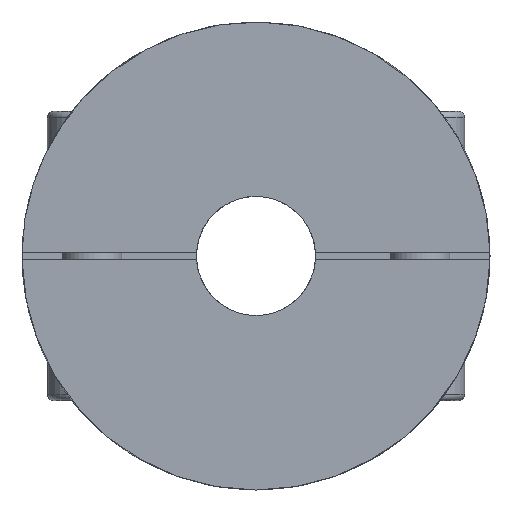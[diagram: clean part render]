
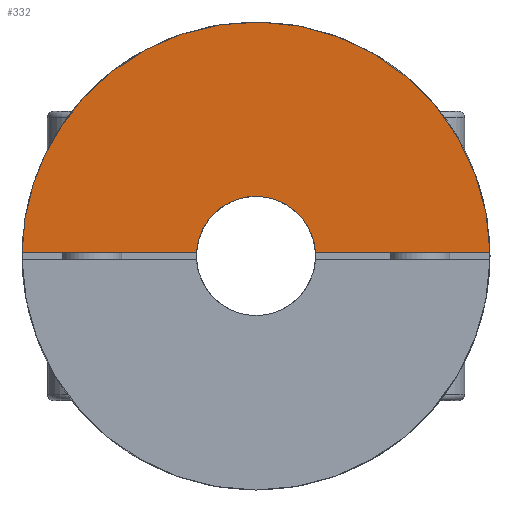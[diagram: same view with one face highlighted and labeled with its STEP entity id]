
A CAD part, left-side view. The second image highlights one B-rep face of the part: STEP entity #332.
In plain terms, the highlighted planar face has unit normal (-1, 0, 0) as drawn and (1, 0, 0) by its records, which use the part's own axes.
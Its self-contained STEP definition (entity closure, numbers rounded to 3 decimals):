
#332 = ADVANCED_FACE( '', ( #663 ), #664, .T. );
#663 = FACE_OUTER_BOUND( '', #1046, .T. );
#664 = PLANE( '', #1047 );
#1046 = EDGE_LOOP( '', ( #1497, #1498, #1499, #1500 ) );
#1047 = AXIS2_PLACEMENT_3D( '', #1501, #1502, #1503 );
#1497 = ORIENTED_EDGE( '', *, *, #1971, .F. );
#1498 = ORIENTED_EDGE( '', *, *, #1972, .F. );
#1499 = ORIENTED_EDGE( '', *, *, #1973, .F. );
#1500 = ORIENTED_EDGE( '', *, *, #1962, .T. );
#1501 = CARTESIAN_POINT( '', ( 38.215, 0., 78.5 ) );
#1502 = DIRECTION( '', ( 1., 0., 0. ) );
#1503 = DIRECTION( '', ( 0., 1., 0. ) );
#1962 = EDGE_CURVE( '', #2240, #2238, #2241, .F. );
#1971 = EDGE_CURVE( '', #2252, #2238, #2253, .T. );
#1972 = EDGE_CURVE( '', #2254, #2252, #2255, .T. );
#1973 = EDGE_CURVE( '', #2240, #2254, #2256, .T. );
#2238 = VERTEX_POINT( '', #2708 );
#2240 = VERTEX_POINT( '', #2711 );
#2241 = CIRCLE( '', #2712, 20. );
#2252 = VERTEX_POINT( '', #2736 );
#2253 = LINE( '', #2737, #2738 );
#2254 = VERTEX_POINT( '', #2739 );
#2255 = CIRCLE( '', #2740, 78.5 );
#2256 = LINE( '', #2741, #2742 );
#2708 = CARTESIAN_POINT( '', ( 38.215, 19.961, 1.25 ) );
#2711 = CARTESIAN_POINT( '', ( 38.215, -19.961, 1.25 ) );
#2712 = AXIS2_PLACEMENT_3D( '', #3379, #3380, #3381 );
#2736 = CARTESIAN_POINT( '', ( 38.215, 78.49, 1.25 ) );
#2737 = CARTESIAN_POINT( '', ( 38.215, 0., 1.25 ) );
#2738 = VECTOR( '', #3390, 1000. );
#2739 = CARTESIAN_POINT( '', ( 38.215, -78.49, 1.25 ) );
#2740 = AXIS2_PLACEMENT_3D( '', #3391, #3392, #3393 );
#2741 = CARTESIAN_POINT( '', ( 38.215, 0., 1.25 ) );
#2742 = VECTOR( '', #3394, 1000. );
#3379 = CARTESIAN_POINT( '', ( 38.215, 0., 0. ) );
#3380 = DIRECTION( '', ( 1., 0., 0. ) );
#3381 = DIRECTION( '', ( 0., 0., -1. ) );
#3390 = DIRECTION( '', ( 0., -1., 0. ) );
#3391 = CARTESIAN_POINT( '', ( 38.215, 0., 0. ) );
#3392 = DIRECTION( '', ( -1., 0., 0. ) );
#3393 = DIRECTION( '', ( 0., 0., 1. ) );
#3394 = DIRECTION( '', ( 0., -1., 0. ) );
